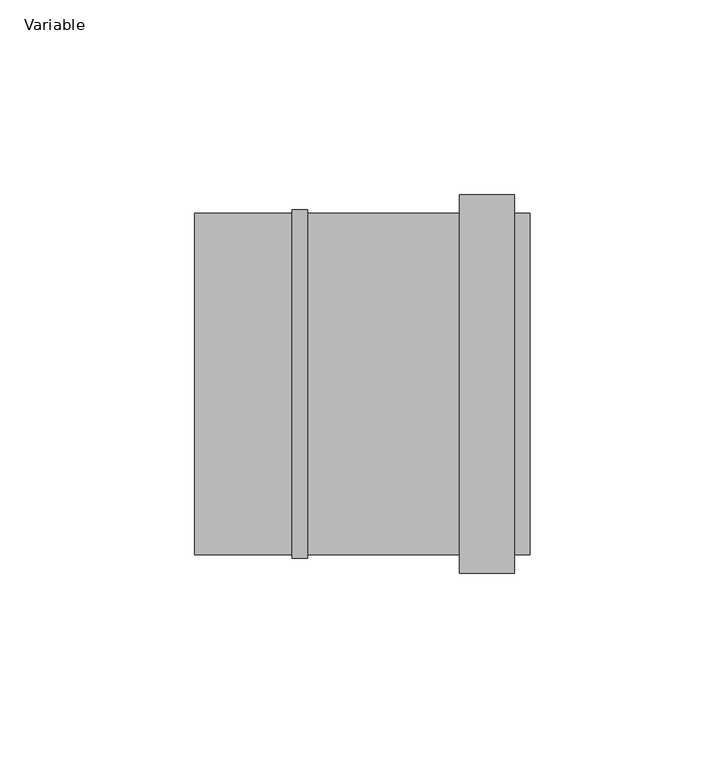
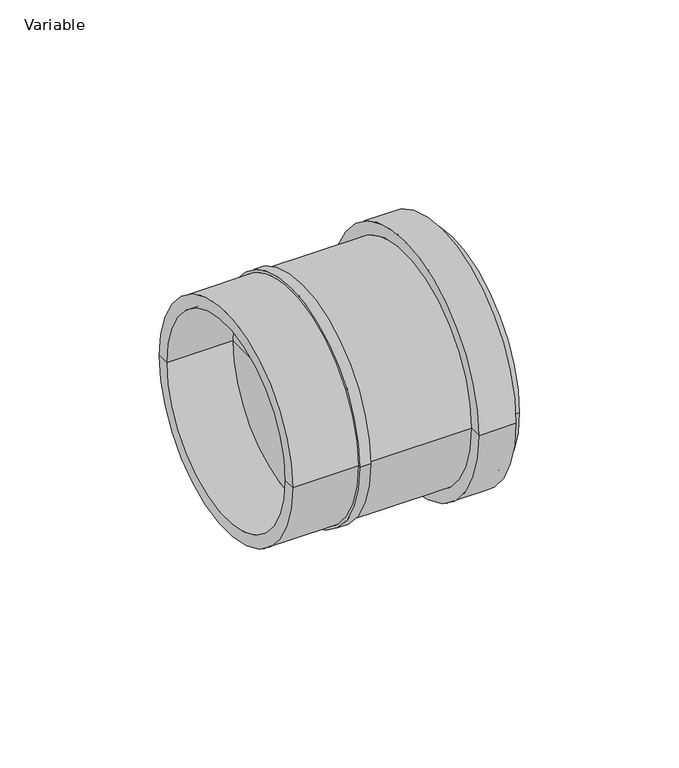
"""IFC4 building model written with IfcOpenShell, lengths in millimetres: pipe fitting geometry, AliaxisFR_Friaphon_MixedCoupling_FR : Variable."""

from ifc_helpers import new_model, si_unit, frame, origin, place, context, project, spatial, polyline, circle_curve, source, transform, mapped, element, save
from ifc_brep_helpers import plane_surface, cylinder_surface, revolved_surface, advanced_brep


def variable_07ac823e(model_context):
    return source(origin(), model_context, "Body", "AdvancedBrep", [
        advanced_brep(
        [(59.5, -43.75, 0.0), (59.5, 43.75, 0.0), (59.5, 39.0, 0.0), (59.5, -39.0, 0.0), (55.5, -43.75, 0.0), (55.5, 43.75, 0.0), (55.5, -48.5, 0.0), (55.5, 48.5, 0.0), (41.5, -48.5, 0.0), (41.5, 48.5, 0.0), (41.5, -43.75, 0.0), (41.5, 43.75, 0.0), (2.5, -43.75, 0.0), (2.5, 43.75, 0.0), (-26.5, -39.0, 0.0), (-26.5, 39.0, 0.0), (-26.5, 43.75, 0.0), (-26.5, -43.75, 0.0), (-1.5, -39.0, 0.0), (-1.5, 39.0, 0.0), (-1.5, 0.0, 0.0), (1.5, 39.0, 0.0), (1.5, -39.0, 0.0), (2.5, -44.75, 0.0), (2.5, 44.75, 0.0), (-1.5, -44.75, 0.0), (-1.5, 44.75, 0.0), (-1.5, -43.75, 0.0), (-1.5, 43.75, 0.0), (1.5, 0.0, 0.0)],
        [
            (0, 1, circle_curve(frame((59.5, 0.0, 0.0), z_axis=(1.0, 0.0, 0.0), x_axis=(0.0, 1.0, 0.0)), 43.75)),
            (1, 2),
            (2, 3, circle_curve(frame((59.5, 0.0, 0.0), z_axis=(-1.0, 0.0, 0.0), x_axis=(0.0, 1.0, 0.0)), 39.0)),
            (3, 0),
            (1, 0, circle_curve(frame((59.5, 0.0, 0.0), z_axis=(1.0, 0.0, 0.0), x_axis=(0.0, 1.0, 0.0)), 43.75)),
            (3, 2, circle_curve(frame((59.5, 0.0, 0.0), z_axis=(-1.0, 0.0, 0.0), x_axis=(0.0, 1.0, 0.0)), 39.0)),
            (4, 5, circle_curve(frame((55.5, 0.0, 0.0), z_axis=(1.0, 0.0, 0.0), x_axis=(0.0, 1.0, 0.0)), 43.75)),
            (5, 1),
            (0, 4),
            (5, 4, circle_curve(frame((55.5, 0.0, 0.0), z_axis=(1.0, 0.0, 0.0), x_axis=(0.0, 1.0, 0.0)), 43.75)),
            (6, 7, circle_curve(frame((55.5, 0.0, 0.0), z_axis=(1.0, 0.0, 0.0), x_axis=(0.0, 1.0, 0.0)), 48.5)),
            (7, 5),
            (4, 6),
            (7, 6, circle_curve(frame((55.5, 0.0, 0.0), z_axis=(1.0, 0.0, 0.0), x_axis=(0.0, 1.0, 0.0)), 48.5)),
            (8, 9, circle_curve(frame((41.5, 0.0, 0.0), z_axis=(1.0, 0.0, 0.0), x_axis=(0.0, 1.0, 0.0)), 48.5)),
            (9, 7),
            (6, 8),
            (9, 8, circle_curve(frame((41.5, 0.0, 0.0), z_axis=(1.0, 0.0, 0.0), x_axis=(0.0, 1.0, 0.0)), 48.5)),
            (10, 11, circle_curve(frame((41.5, 0.0, 0.0), z_axis=(1.0, 0.0, 0.0), x_axis=(0.0, 1.0, 0.0)), 43.75)),
            (11, 9),
            (8, 10),
            (11, 10, circle_curve(frame((41.5, 0.0, 0.0), z_axis=(1.0, 0.0, 0.0), x_axis=(0.0, 1.0, 0.0)), 43.75)),
            (12, 13, circle_curve(frame((2.5, 0.0, 0.0), z_axis=(1.0, 0.0, 0.0), x_axis=(0.0, 1.0, 0.0)), 43.75)),
            (13, 11),
            (10, 12),
            (13, 12, circle_curve(frame((2.5, 0.0, 0.0), z_axis=(1.0, 0.0, 0.0), x_axis=(0.0, 1.0, 0.0)), 43.75)),
            (14, 15, circle_curve(frame((-26.5, 0.0, 0.0), z_axis=(1.0, 0.0, 0.0), x_axis=(0.0, 1.0, 0.0)), 39.0)),
            (15, 16),
            (16, 17, circle_curve(frame((-26.5, 0.0, 0.0), z_axis=(-1.0, 0.0, 0.0), x_axis=(0.0, 1.0, 0.0)), 43.75)),
            (17, 14),
            (15, 14, circle_curve(frame((-26.5, 0.0, 0.0), z_axis=(1.0, 0.0, 0.0), x_axis=(0.0, 1.0, 0.0)), 39.0)),
            (17, 16, circle_curve(frame((-26.5, 0.0, 0.0), z_axis=(-1.0, 0.0, 0.0), x_axis=(0.0, 1.0, 0.0)), 43.75)),
            (18, 19, circle_curve(frame((-1.5, 0.0, 0.0), z_axis=(1.0, 0.0, 0.0), x_axis=(0.0, 1.0, 0.0)), 39.0)),
            (19, 15),
            (14, 18),
            (19, 18, circle_curve(frame((-1.5, 0.0, 0.0), z_axis=(1.0, 0.0, 0.0), x_axis=(0.0, 1.0, 0.0)), 39.0)),
            (20, 19),
            (18, 20),
            (2, 21),
            (21, 22, circle_curve(frame((1.5, 0.0, 0.0), z_axis=(-1.0, 0.0, 0.0), x_axis=(0.0, 1.0, 0.0)), 39.0)),
            (22, 3),
            (22, 21, circle_curve(frame((1.5, 0.0, 0.0), z_axis=(-1.0, 0.0, 0.0), x_axis=(0.0, 1.0, 0.0)), 39.0)),
            (23, 24, circle_curve(frame((2.5, 0.0, 0.0), z_axis=(1.0, 0.0, 0.0), x_axis=(0.0, 1.0, 0.0)), 44.75)),
            (24, 13),
            (12, 23),
            (24, 23, circle_curve(frame((2.5, 0.0, 0.0), z_axis=(1.0, 0.0, 0.0), x_axis=(0.0, 1.0, 0.0)), 44.75)),
            (25, 26, circle_curve(frame((-1.5, 0.0, 0.0), z_axis=(1.0, 0.0, 0.0), x_axis=(0.0, 1.0, 0.0)), 44.75)),
            (26, 24),
            (23, 25),
            (26, 25, circle_curve(frame((-1.5, 0.0, 0.0), z_axis=(1.0, 0.0, 0.0), x_axis=(0.0, 1.0, 0.0)), 44.75)),
            (27, 28, circle_curve(frame((-1.5, 0.0, 0.0), z_axis=(1.0, 0.0, 0.0), x_axis=(0.0, 1.0, 0.0)), 43.75)),
            (28, 26),
            (25, 27),
            (28, 27, circle_curve(frame((-1.5, 0.0, 0.0), z_axis=(1.0, 0.0, 0.0), x_axis=(0.0, 1.0, 0.0)), 43.75)),
            (16, 28),
            (27, 17),
            (21, 29),
            (29, 22),
        ],
        [
            plane_surface(frame((59.5, 0.0, 0.0), z_axis=(1.0, 0.0, 0.0), x_axis=(0.0, 1.0, 0.0))),
            cylinder_surface(frame((2007.5, 0.0, 0.0), z_axis=(-1.0, 0.0, 0.0), x_axis=(0.0, 1.0, 0.0)), 43.75),
            plane_surface(frame((55.5, 0.0, 0.0), z_axis=(1.0, 0.0, 0.0), x_axis=(0.0, 1.0, 0.0))),
            cylinder_surface(frame((2007.5, 0.0, 0.0), z_axis=(-1.0, 0.0, 0.0), x_axis=(0.0, 1.0, 0.0)), 48.5),
            plane_surface(frame((41.5, 0.0, 0.0), z_axis=(-1.0, 0.0, 0.0), x_axis=(0.0, 1.0, 0.0))),
            plane_surface(frame((-26.5, 0.0, 0.0), z_axis=(-1.0, 0.0, 0.0), x_axis=(0.0, 1.0, 0.0))),
            revolved_surface(polyline([(-26.5, 39.0, 0.0), (-1.5, 39.0, 0.0)]), (2007.5, 0.0, 0.0), (-1.0, 0.0, 0.0)),
            plane_surface(frame((-1.5, 0.0, 0.0), z_axis=(-1.0, 0.0, 0.0), x_axis=(0.0, 1.0, 0.0))),
            revolved_surface(polyline([(1.5, 39.0, 0.0), (59.5, 39.0, 0.0)]), (2007.5, 0.0, 0.0), (-1.0, 0.0, 0.0)),
            plane_surface(frame((2.5, 0.0, 0.0), z_axis=(1.0, 0.0, 0.0), x_axis=(0.0, 1.0, 0.0))),
            cylinder_surface(frame((2007.5, 0.0, 0.0), z_axis=(-1.0, 0.0, 0.0), x_axis=(0.0, 1.0, 0.0)), 44.75),
            plane_surface(frame((1.5, 0.0, 0.0), z_axis=(1.0, 0.0, 0.0), x_axis=(0.0, 1.0, 0.0))),
        ],
        [
            (0, [[1, 2, 3, 4]]),
            (0, [[5, -4, 6, -2]]),
            (1, [[7, 8, -1, 9]]),
            (1, [[10, -9, -5, -8]]),
            (2, [[11, 12, -7, 13]]),
            (2, [[14, -13, -10, -12]]),
            (3, [[15, 16, -11, 17]]),
            (3, [[18, -17, -14, -16]]),
            (4, [[19, 20, -15, 21]]),
            (4, [[22, -21, -18, -20]]),
            (1, [[23, 24, -19, 25]]),
            (1, [[26, -25, -22, -24]]),
            (5, [[27, 28, 29, 30]]),
            (5, [[31, -30, 32, -28]]),
            (6, [[33, 34, -27, 35]]),
            (6, [[36, -35, -31, -34]]),
            (7, [[37, -33, 38]]),
            (7, [[-38, -36, -37]]),
            (8, [[-3, 39, 40, 41]]),
            (8, [[-6, -41, 42, -39]]),
            (9, [[43, 44, -23, 45]]),
            (9, [[46, -45, -26, -44]]),
            (10, [[47, 48, -43, 49]]),
            (10, [[50, -49, -46, -48]]),
            (7, [[51, 52, -47, 53]]),
            (7, [[54, -53, -50, -52]]),
            (1, [[-29, 55, -51, 56]]),
            (1, [[-32, -56, -54, -55]]),
            (11, [[-40, 57, 58]]),
            (11, [[-42, -58, -57]]),
        ],
    ),
    ])


if __name__ == "__main__":
    model = new_model("IFC4")
    model_context = context("Model", 3, world=origin())
    ifc_project = project(units=[si_unit("LENGTHUNIT", "METRE", prefix="MILLI")], contexts=[model_context])
    site = spatial("IfcSite", under=ifc_project)
    building = spatial("IfcBuilding", under=site)
    placement = place(None, origin())
    variable_shape = variable_07ac823e(model_context)
    element("IfcPipeFitting", 1, ObjectType="AliaxisFR_Friaphon_MixedCoupling_FR : Variable", at=placement, inside=building, context=model_context, shape_type="MappedRepresentation", body=[
        mapped(variable_shape, transform((0.0, 0.0, 0.0), x_axis=(1.0, 0.0, 0.0), y_axis=(0.0, 1.0, 0.0), z_axis=(0.0, 0.0, 1.0))),
    ])
    save(model, "model.ifc")
